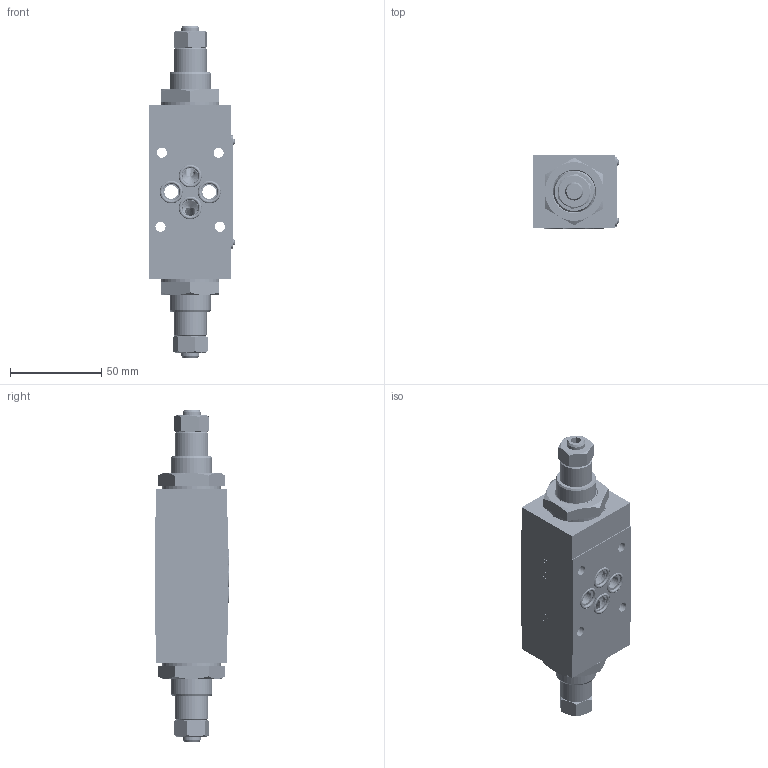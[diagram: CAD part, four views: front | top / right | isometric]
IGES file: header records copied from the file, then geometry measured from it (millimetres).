
Start section: SolidWorks IGES file using analytic representation for surfaces
Global section: file name: C:\Users\user\Desktop\FT358-5-AB-03.IGS; native system: SolidWorks 2014; preprocessor: SolidWorks 2014; author: user; date: 140618.083010; units: millimetre
Bounding box: 46.96 x 40.38 x 181.6 mm (x, y, z)
Surface area: 73042 mm2 (no closed solid volume)
Topology: 0 solids, 0 shells, 2213 faces, 28089 edges, 28069 vertices
Faces by surface type: bspline 1535, revolution 678
